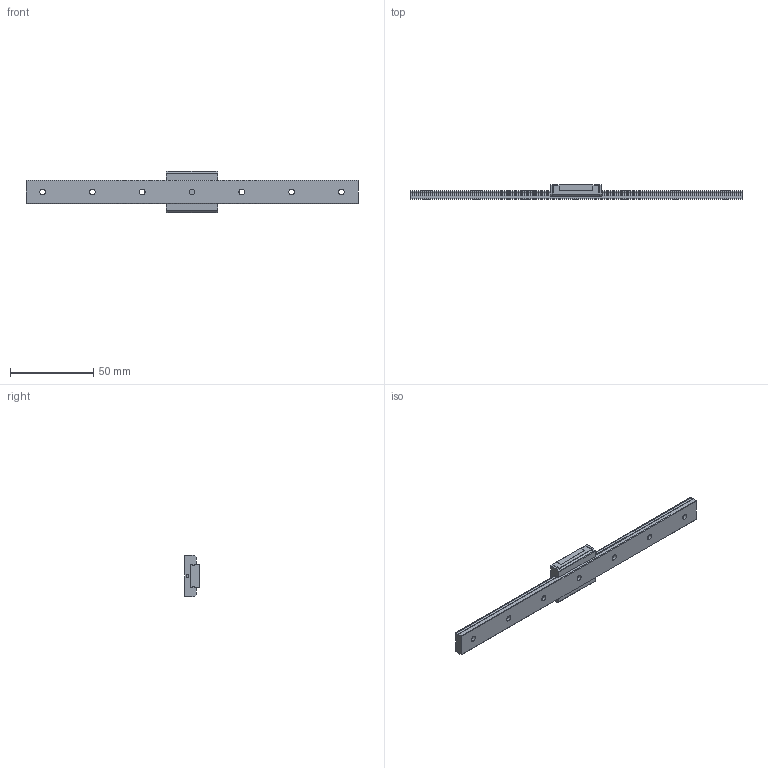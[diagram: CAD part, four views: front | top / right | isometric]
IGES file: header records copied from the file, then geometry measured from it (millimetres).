
Start section: Data from XPlus IGES,  Spatial Corp. Copyright (c) 1999-2004
Global section: file name: SRS7WM1UU20010084.5000.igs; native system:  By Spatial Corp.; preprocessor: XPlus ACIS/IGES 3.0; author: Noname; organization: Noname; date: 20161110.141131; units: millimetre
Bounding box: 200 x 9 x 25 mm (x, y, z)
Surface area: 10960.4 mm2 (no closed solid volume)
Topology: 0 solids, 0 shells, 149 faces, 776 edges, 768 vertices
Faces by surface type: revolution 80, extrusion 69
